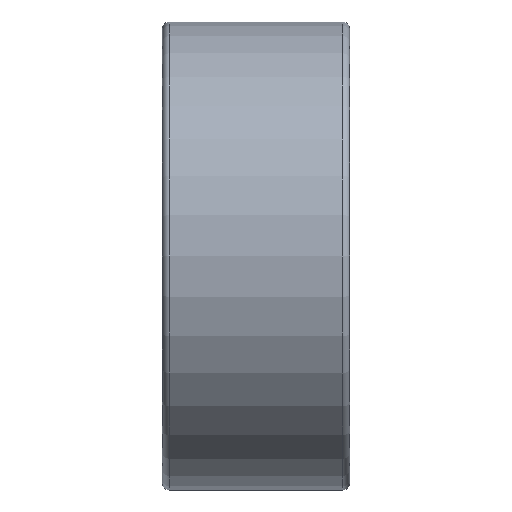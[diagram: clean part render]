
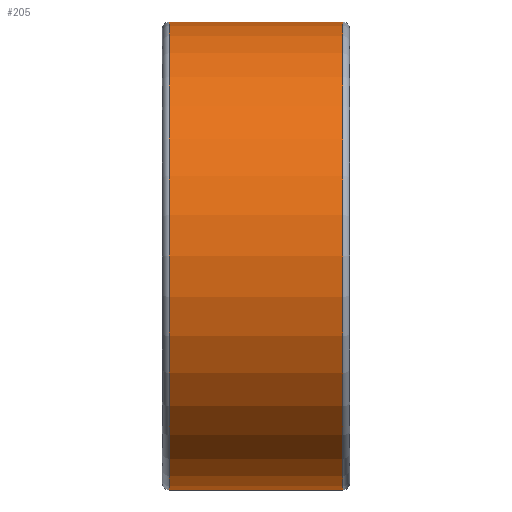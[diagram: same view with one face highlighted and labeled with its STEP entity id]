
A CAD part, front view. The second image highlights one B-rep face of the part: STEP entity #205.
In plain terms, the highlighted cylindrical face has radius 5 mm (diameter 10 mm), a full revolution.
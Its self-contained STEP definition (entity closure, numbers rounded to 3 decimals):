
#28=LINE('',#370,#34);
#34=VECTOR('',#298,5.);
#40=CYLINDRICAL_SURFACE('',#243,5.);
#49=FACE_OUTER_BOUND('',#66,.T.);
#66=EDGE_LOOP('',(#159,#160,#161,#162));
#88=CIRCLE('',#240,5.);
#91=CIRCLE('',#244,5.);
#107=VERTEX_POINT('',#362);
#109=VERTEX_POINT('',#368);
#125=EDGE_CURVE('',#107,#107,#88,.T.);
#128=EDGE_CURVE('',#109,#109,#91,.T.);
#129=EDGE_CURVE('',#109,#107,#28,.T.);
#159=ORIENTED_EDGE('',*,*,#128,.F.);
#160=ORIENTED_EDGE('',*,*,#129,.T.);
#161=ORIENTED_EDGE('',*,*,#125,.F.);
#162=ORIENTED_EDGE('',*,*,#129,.F.);
#205=ADVANCED_FACE('',(#49),#40,.T.);
#240=AXIS2_PLACEMENT_3D('',#363,#288,#289);
#243=AXIS2_PLACEMENT_3D('',#367,#294,#295);
#244=AXIS2_PLACEMENT_3D('',#369,#296,#297);
#288=DIRECTION('center_axis',(1.,0.,0.));
#289=DIRECTION('ref_axis',(0.,0.,-1.));
#294=DIRECTION('center_axis',(-1.,0.,0.));
#295=DIRECTION('ref_axis',(0.,0.,1.));
#296=DIRECTION('center_axis',(-1.,0.,0.));
#297=DIRECTION('ref_axis',(0.,0.,-1.));
#298=DIRECTION('',(1.,0.,0.));
#362=CARTESIAN_POINT('',(3.85,0.,-5.));
#363=CARTESIAN_POINT('Origin',(3.85,0.,0.));
#367=CARTESIAN_POINT('Origin',(2.,0.,0.));
#368=CARTESIAN_POINT('',(0.15,0.,-5.));
#369=CARTESIAN_POINT('Origin',(0.15,0.,0.));
#370=CARTESIAN_POINT('',(2.,0.,-5.));
